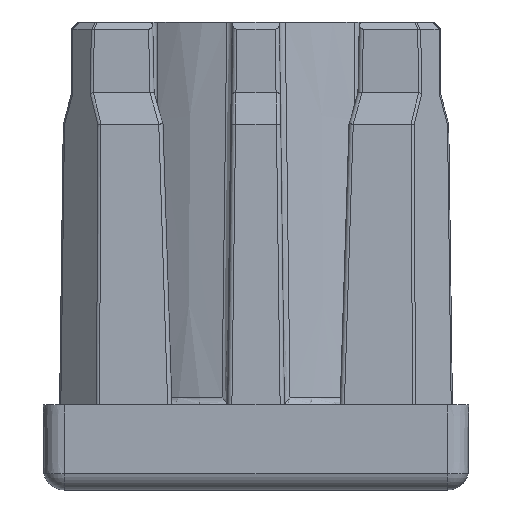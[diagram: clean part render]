
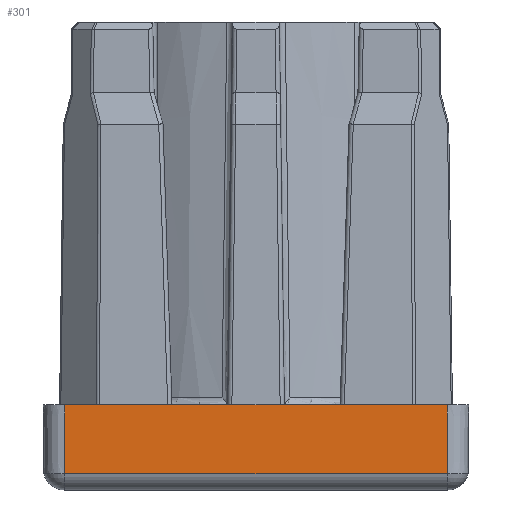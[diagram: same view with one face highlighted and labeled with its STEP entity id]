
A CAD part, front view. The second image highlights one B-rep face of the part: STEP entity #301.
In plain terms, the highlighted planar face has unit normal (0, -1, -0.009).
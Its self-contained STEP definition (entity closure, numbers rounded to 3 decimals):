
#262=CARTESIAN_POINT('Axis2P3D Location',(0.,-15.,6.)) ;
#267=CARTESIAN_POINT('Line Origine',(0.,-14.958,1.146)) ;
#271=CARTESIAN_POINT('Vertex',(13.5,-14.958,1.146)) ;
#273=CARTESIAN_POINT('Vertex',(-13.5,-14.958,1.146)) ;
#276=CARTESIAN_POINT('Line Origine',(13.5,-14.979,3.573)) ;
#280=CARTESIAN_POINT('Vertex',(13.5,-15.,6.)) ;
#283=CARTESIAN_POINT('Line Origine',(0.,-15.,6.)) ;
#287=CARTESIAN_POINT('Vertex',(-13.5,-15.,6.)) ;
#290=CARTESIAN_POINT('Line Origine',(-13.5,-14.979,3.573)) ;
#263=DIRECTION('Axis2P3D Direction',(0.,1.,0.009)) ;
#264=DIRECTION('Axis2P3D XDirection',(-1.,0.,0.)) ;
#268=DIRECTION('Vector Direction',(-1.,0.,0.)) ;
#277=DIRECTION('Vector Direction',(0.,-0.009,1.)) ;
#284=DIRECTION('Vector Direction',(-1.,0.,0.)) ;
#291=DIRECTION('Vector Direction',(0.,-0.009,1.)) ;
#265=AXIS2_PLACEMENT_3D('Plane Axis2P3D',#262,#263,#264) ;
#296=ORIENTED_EDGE('',*,*,#275,.F.) ;
#297=ORIENTED_EDGE('',*,*,#282,.F.) ;
#298=ORIENTED_EDGE('',*,*,#289,.F.) ;
#299=ORIENTED_EDGE('',*,*,#294,.T.) ;
#269=VECTOR('Line Direction',#268,1.) ;
#278=VECTOR('Line Direction',#277,1.) ;
#285=VECTOR('Line Direction',#284,1.) ;
#292=VECTOR('Line Direction',#291,1.) ;
#301=ADVANCED_FACE('PartBody',(#300),#266,.F.) ;
#275=EDGE_CURVE('',#272,#274,#270,.T.) ;
#282=EDGE_CURVE('',#281,#272,#279,.F.) ;
#289=EDGE_CURVE('',#288,#281,#286,.F.) ;
#294=EDGE_CURVE('',#288,#274,#293,.F.) ;
#295=EDGE_LOOP('',(#296,#297,#298,#299)) ;
#300=FACE_OUTER_BOUND('',#295,.T.) ;
#270=LINE('Line',#267,#269) ;
#279=LINE('Line',#276,#278) ;
#286=LINE('Line',#283,#285) ;
#293=LINE('Line',#290,#292) ;
#266=PLANE('',#265) ;
#272=VERTEX_POINT('',#271) ;
#274=VERTEX_POINT('',#273) ;
#281=VERTEX_POINT('',#280) ;
#288=VERTEX_POINT('',#287) ;
